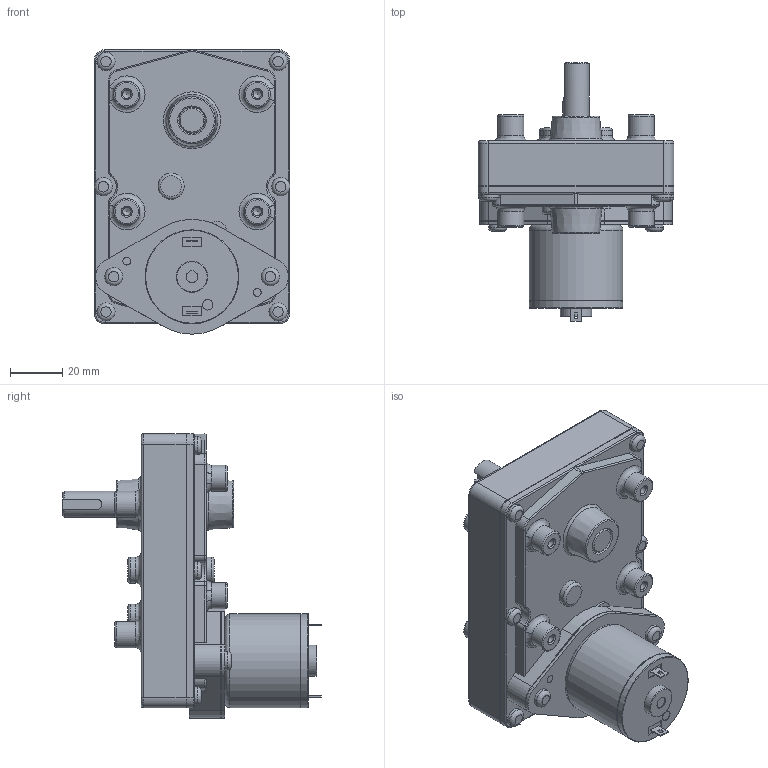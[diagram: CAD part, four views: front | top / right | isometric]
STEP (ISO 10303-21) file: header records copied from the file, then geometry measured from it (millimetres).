
FILE_DESCRIPTION((''),'2;1');
FILE_NAME('C:\Documents and Settings\SSEGAWA\デスクトップ\TP-3632A-LGL.STP','2013-07-11T17:02:18',('SSEGAWA'),(''),'Autodesk Inventor 2010','Autodesk Inventor 2010','');
FILE_SCHEMA(('CONFIG_CONTROL_DESIGN'));
Length unit declared in the file: millimetre
Products named in the file (1): tp_3632ac_lgl_Shrinkwrap_1
Bounding box: 75 x 99.1 x 109 mm (x, y, z)
Volume: 252052.5 mm3; surface area: 35461.4 mm2
Topology: 1 solids, 4 shells, 296 faces, 681 edges, 425 vertices
Faces by surface type: plane 107, cylinder 82, bspline 54, torus 40, cone 13
Full cylindrical faces by diameter (mm): 3 x2, 4 x1, 4.5 x1, 7 x4, 9 x2, 9.3 x1, 10 x11, 12 x1, 15 x1, 35.6 x1, 36 x2
Entity records: 9058 total; most frequent: CARTESIAN_POINT 2605, DIRECTION 1305, ORIENTED_EDGE 1110, EDGE_CURVE 555, AXIS2_PLACEMENT_3D 523, EDGE_LOOP 431, VERTEX_POINT 396, STYLED_ITEM 297
